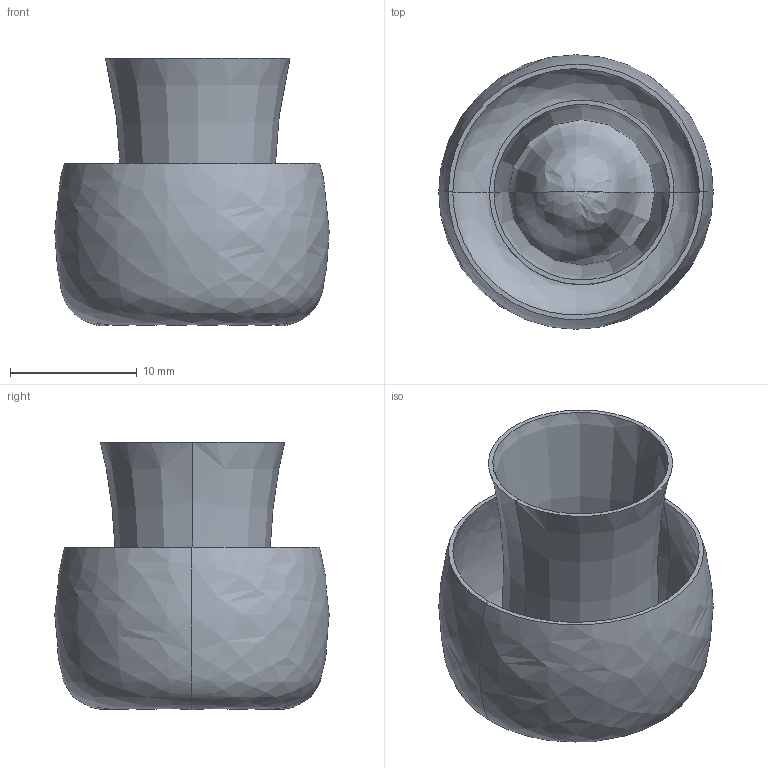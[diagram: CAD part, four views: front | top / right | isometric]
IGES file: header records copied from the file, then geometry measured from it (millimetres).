
Global section: file name: C:\Users\utente\Desktop\3d sito\MURANO E\MURANO E.igs; native system: Rhinoceros ( Mar  9 2011 ); preprocessor: Trout Lake IGES 012 Mar  9 2011; date: 170531.090257; units: millimetre
Bounding box: 21.69 x 21.68 x 21.13 mm (x, y, z)
Surface area: 4059.6 mm2 (no closed solid volume)
Topology: 0 solids, 0 shells, 14 faces, 56 edges, 54 vertices
Faces by surface type: bspline 14
